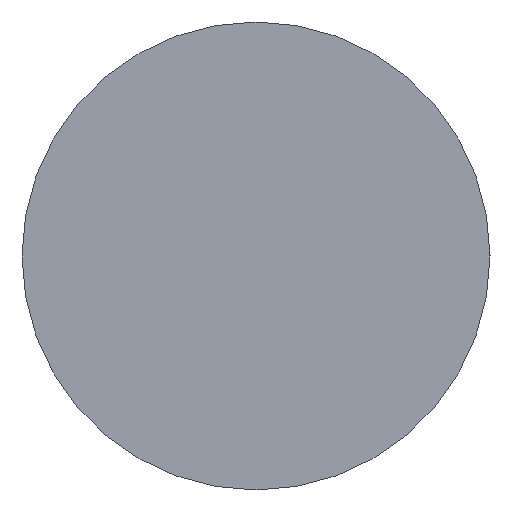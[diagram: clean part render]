
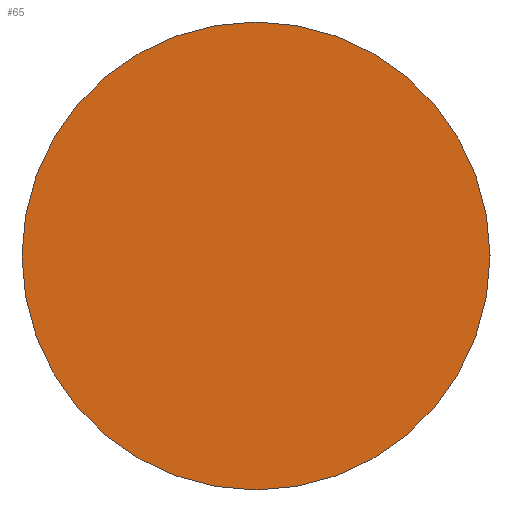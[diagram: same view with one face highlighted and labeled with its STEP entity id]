
A CAD part, left-side view. The second image highlights one B-rep face of the part: STEP entity #65.
In plain terms, the highlighted planar face has unit normal (-1, 0, 0).
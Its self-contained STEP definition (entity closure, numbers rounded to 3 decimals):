
#17=PLANE('',#97);
#22=FACE_OUTER_BOUND('',#28,.T.);
#28=EDGE_LOOP('',(#58));
#37=CIRCLE('',#96,13.45);
#41=VERTEX_POINT('',#132);
#46=EDGE_CURVE('',#41,#41,#37,.T.);
#58=ORIENTED_EDGE('',*,*,#46,.T.);
#65=ADVANCED_FACE('',(#22),#17,.T.);
#96=AXIS2_PLACEMENT_3D('',#133,#114,#115);
#97=AXIS2_PLACEMENT_3D('',#135,#117,#118);
#114=DIRECTION('center_axis',(-1.,0.,0.));
#115=DIRECTION('ref_axis',(0.,0.,1.));
#117=DIRECTION('center_axis',(-1.,0.,0.));
#118=DIRECTION('ref_axis',(0.,0.,1.));
#132=CARTESIAN_POINT('',(0.,-13.45,0.));
#133=CARTESIAN_POINT('Origin',(0.,0.,
0.));
#135=CARTESIAN_POINT('Origin',(0.,0.,0.));
